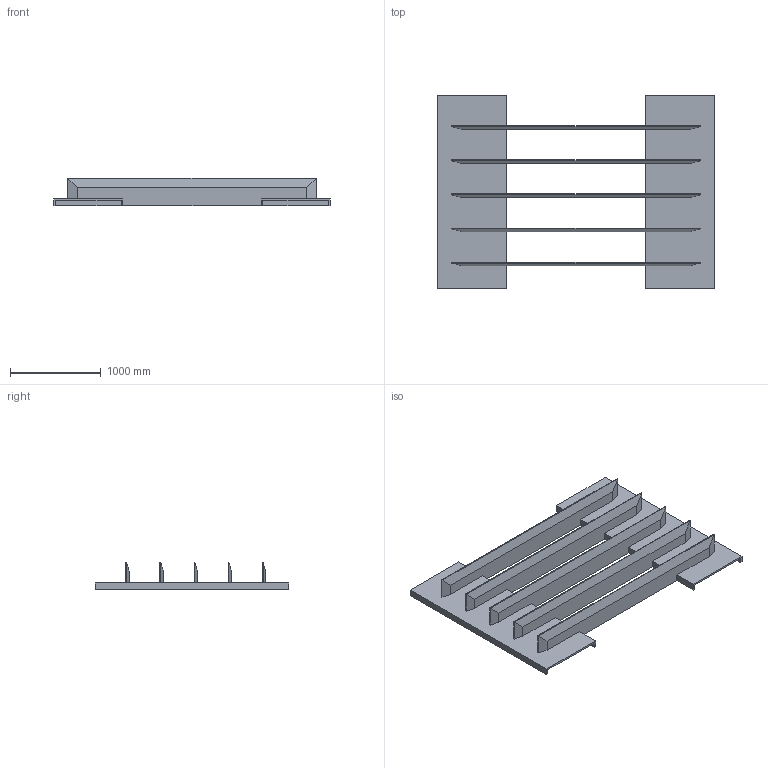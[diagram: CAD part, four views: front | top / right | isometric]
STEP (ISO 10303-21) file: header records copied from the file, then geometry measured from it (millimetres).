
FILE_DESCRIPTION(/* description */ ('','CAx-IF Rec.Pracs.---Representation and Presentation of Product Manufacturing Information (PMI)---4.0---2014-10-13'),/* implementation_level */ '2;1');
FILE_NAME(/* name */ 'AERO^CS3.stp',/* time_stamp */ '2024-12-05T16:48:58-05:00',/* author */ ('mbowman'),/* organization */ (''),/* preprocessor_version */ 'ST-DEVELOPER v19.2',/* originating_system */ 'Autodesk Inventor 2023',/* authorisation */ '');
FILE_SCHEMA (('AP242_MANAGED_MODEL_BASED_3D_ENGINEERING_MIM_LF { 1 0 10303 442 1 1 4 }'));
Length unit declared in the file: inch
Products named in the file (3): AERO^WALL HUNG_SHELF STORAGE-SOLID ASSEMBLY; AERO^WALL HUNG_SHELF STORAGE-WALL PARTS SOLID; AERO^WALL HUNG_SHELF STORAGE-SHELF
Assembly tree (7 placements, depth 2):
  AERO^WALL HUNG_SHELF STORAGE-SOLID ASSEMBLY
    AERO^WALL HUNG_SHELF STORAGE-WALL PARTS SOLID  x2
    AERO^WALL HUNG_SHELF STORAGE-SHELF  x5
Bounding box: 3048 x 2133.6 x 304.8 mm (x, y, z)
Volume: 191096573 mm3; surface area: 16598628.8 mm2
Topology: 13 solids, 13 shells, 113 faces, 251 edges, 164 vertices
Faces by surface type: plane 113
Entity records: 1397 total; most frequent: CARTESIAN_POINT 273, DIRECTION 189, ORIENTED_EDGE 158, LINE 79, VECTOR 79, EDGE_CURVE 79, STYLED_ITEM 60, AXIS2_PLACEMENT_3D 55
